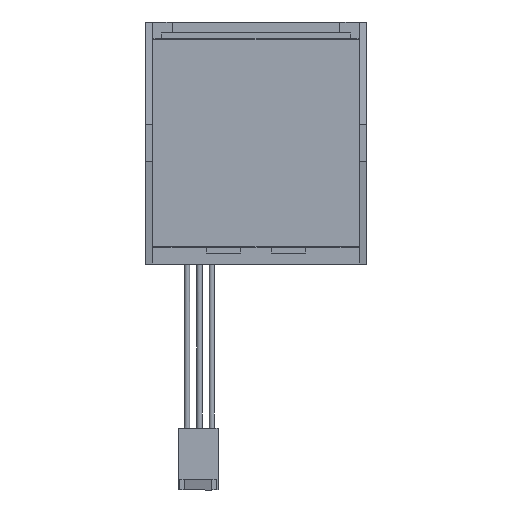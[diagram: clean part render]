
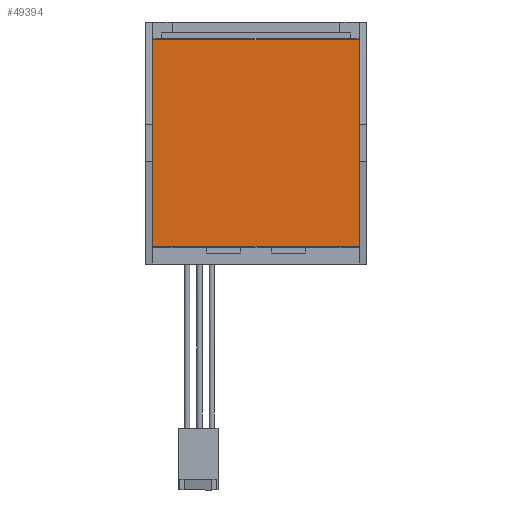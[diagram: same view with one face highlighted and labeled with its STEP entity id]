
A CAD part, front view. The second image highlights one B-rep face of the part: STEP entity #49394.
In plain terms, the highlighted planar face has unit normal (0, -1, 0).
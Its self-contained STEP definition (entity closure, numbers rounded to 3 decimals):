
#154 = VECTOR ( 'NONE', #29755, 1000. ) ;
#1330 = AXIS2_PLACEMENT_3D ( 'NONE', #42924, #9256, #32868 ) ;
#2525 = ORIENTED_EDGE ( 'NONE', *, *, #17083, .F. ) ;
#2562 = VERTEX_POINT ( 'NONE', #34934 ) ;
#3437 = CARTESIAN_POINT ( 'NONE',  ( -21.209, -0.127, 21.209 ) ) ;
#3936 = VERTEX_POINT ( 'NONE', #60526 ) ;
#6422 = VERTEX_POINT ( 'NONE', #3437 ) ;
#7596 = CARTESIAN_POINT ( 'NONE',  ( -21.209, -0.127, -21.209 ) ) ;
#7992 = LINE ( 'NONE', #23069, #48608 ) ;
#8660 = FACE_OUTER_BOUND ( 'NONE', #44607, .T. ) ;
#9121 = LINE ( 'NONE', #42777, #62026 ) ;
#9256 = DIRECTION ( 'NONE',  ( 0., 1., 0. ) ) ;
#9299 = LINE ( 'NONE', #52724, #154 ) ;
#12873 = LINE ( 'NONE', #7596, #22733 ) ;
#14354 = CARTESIAN_POINT ( 'NONE',  ( 21.209, -0.127, 21.209 ) ) ;
#17083 = EDGE_CURVE ( 'NONE', #53881, #3936, #9121, .T. ) ;
#21814 = ORIENTED_EDGE ( 'NONE', *, *, #23416, .F. ) ;
#22733 = VECTOR ( 'NONE', #31827, 1000. ) ;
#23069 = CARTESIAN_POINT ( 'NONE',  ( -21.209, -0.127, 21.209 ) ) ;
#23110 = PLANE ( 'NONE',  #1330 ) ;
#23416 = EDGE_CURVE ( 'NONE', #3936, #2562, #9299, .T. ) ;
#29755 = DIRECTION ( 'NONE',  ( -1., 0., 0. ) ) ;
#31827 = DIRECTION ( 'NONE',  ( 0., 0., 1. ) ) ;
#32834 = EDGE_CURVE ( 'NONE', #2562, #6422, #12873, .T. ) ;
#32868 = DIRECTION ( 'NONE',  ( 0., 0., 1. ) ) ;
#34934 = CARTESIAN_POINT ( 'NONE',  ( -21.209, -0.127, -21.209 ) ) ;
#38063 = DIRECTION ( 'NONE',  ( 0., 0., -1. ) ) ;
#42777 = CARTESIAN_POINT ( 'NONE',  ( 21.209, -0.127, -21.209 ) ) ;
#42924 = CARTESIAN_POINT ( 'NONE',  ( -21.209, -0.127, 21.209 ) ) ;
#43815 = ORIENTED_EDGE ( 'NONE', *, *, #32834, .F. ) ;
#44607 = EDGE_LOOP ( 'NONE', ( #43815, #21814, #2525, #51722 ) ) ;
#48608 = VECTOR ( 'NONE', #61504, 1000. ) ;
#49394 = ADVANCED_FACE ( 'NONE', ( #8660 ), #23110, .F. ) ;
#51722 = ORIENTED_EDGE ( 'NONE', *, *, #52970, .F. ) ;
#52724 = CARTESIAN_POINT ( 'NONE',  ( -21.209, -0.127, -21.209 ) ) ;
#52970 = EDGE_CURVE ( 'NONE', #6422, #53881, #7992, .T. ) ;
#53881 = VERTEX_POINT ( 'NONE', #14354 ) ;
#60526 = CARTESIAN_POINT ( 'NONE',  ( 21.209, -0.127, -21.209 ) ) ;
#61504 = DIRECTION ( 'NONE',  ( 1., 0., 0. ) ) ;
#62026 = VECTOR ( 'NONE', #38063, 1000. ) ;
